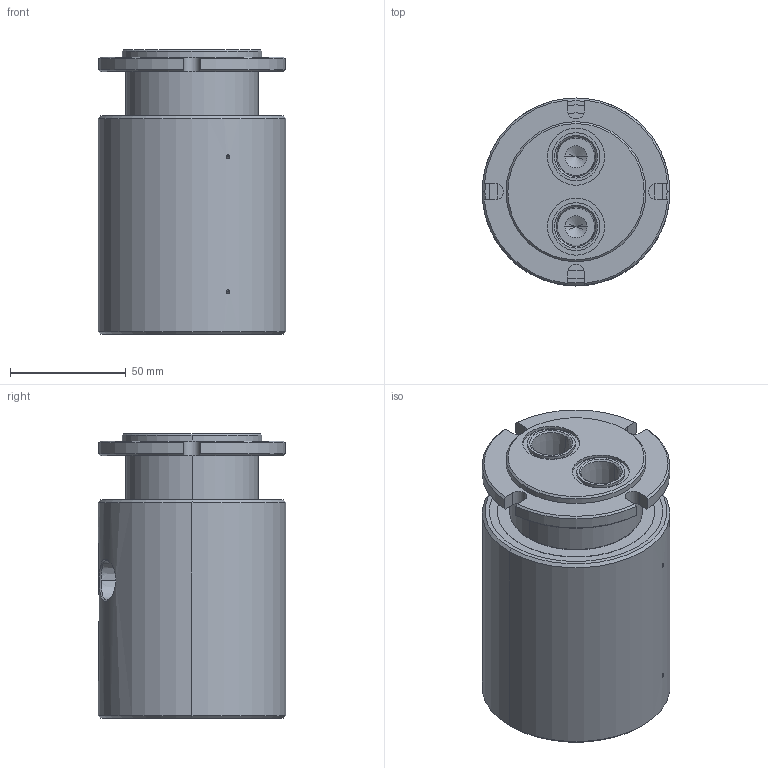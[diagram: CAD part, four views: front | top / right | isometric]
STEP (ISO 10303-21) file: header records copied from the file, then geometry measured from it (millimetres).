
FILE_DESCRIPTION (( 'STEP AP214' ), '1' );
FILE_NAME ('GP(M)-320.STEP', '2013-02-05T22:39:28', ( '' ), ( '' ), 'SwSTEP 2.0', 'SolidWorks 2011', '' );
FILE_SCHEMA (( 'AUTOMOTIVE_DESIGN' ));
Length unit declared in the file: inch
Products named in the file (1): GP(M)-320
Bounding box: 80.95 x 80.95 x 122.71 mm (x, y, z)
Volume: 545791.8 mm3; surface area: 51893.7 mm2
Topology: 1 solids, 1 shells, 156 faces, 370 edges, 226 vertices
Faces by surface type: cylinder 69, cone 46, plane 35, bspline 4, torus 2
Entity records: 5333 total; most frequent: CARTESIAN_POINT 1397, DIRECTION 790, ORIENTED_EDGE 700, EDGE_CURVE 350, AXIS2_PLACEMENT_3D 323, VERTEX_POINT 226, EDGE_LOOP 186, CIRCLE 170
